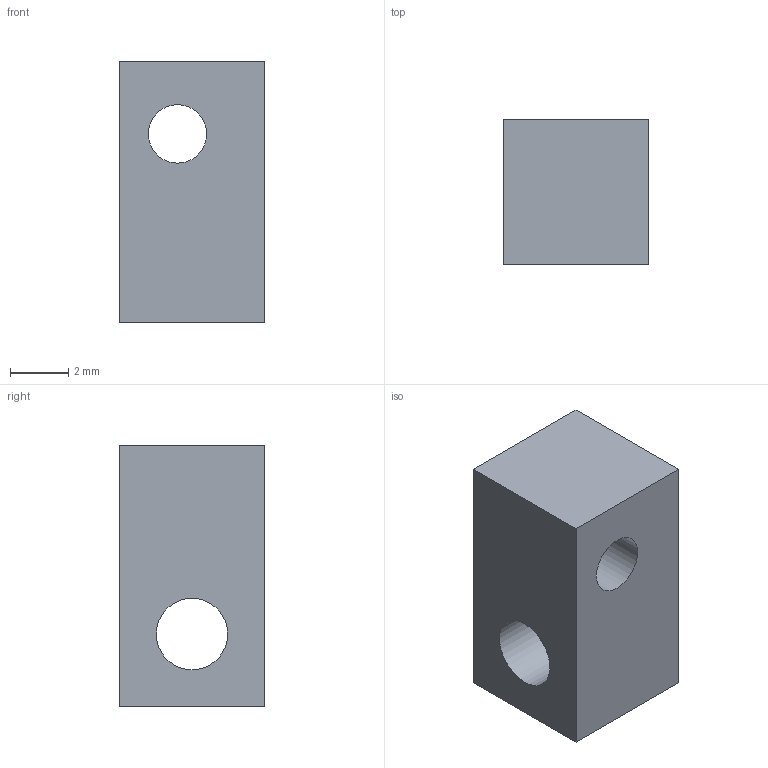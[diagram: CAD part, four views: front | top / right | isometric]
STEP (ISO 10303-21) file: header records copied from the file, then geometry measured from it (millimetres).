
FILE_DESCRIPTION(/* description */ ('','CAx-IF Rec.Pracs.---Representation and Presentation of Product Manufacturing Information (PMI)---4.0---2014-10-13'),/* implementation_level */ '2;1');
FILE_NAME(/* name */ 'G:\Alle CAD Daten\CAMTEC_2021_Pack and Go\PSU CPS-i3000 - CPS-i2000\2051055001.stp',/* time_stamp */ '2020-09-15T19:27:20+02:00',/* author */ ('rryba'),/* organization */ (''),/* preprocessor_version */ 'ST-DEVELOPER v18.1',/* originating_system */ 'Autodesk Inventor 2021',/* authorisation */ '');
FILE_SCHEMA (('AP242_MANAGED_MODEL_BASED_3D_ENGINEERING_MIM_LF { 1 0 10303 442 1 1 4 }'));
Length unit declared in the file: millimetre
Products named in the file (1): 2051055001
Bounding box: 5 x 5 x 9 mm (x, y, z)
Volume: 185.3 mm3; surface area: 284.4 mm2
Topology: 1 solids, 1 shells, 8 faces, 26 edges, 28 vertices
Faces by surface type: plane 6, cylinder 2
Full cylindrical faces by diameter (mm): 2.013 x1, 2.459 x1
Entity records: 333 total; most frequent: CARTESIAN_POINT 55, DIRECTION 40, ORIENTED_EDGE 36, EDGE_CURVE 18, LINE 14, VECTOR 14, AXIS2_PLACEMENT_3D 13, STYLED_ITEM 12
